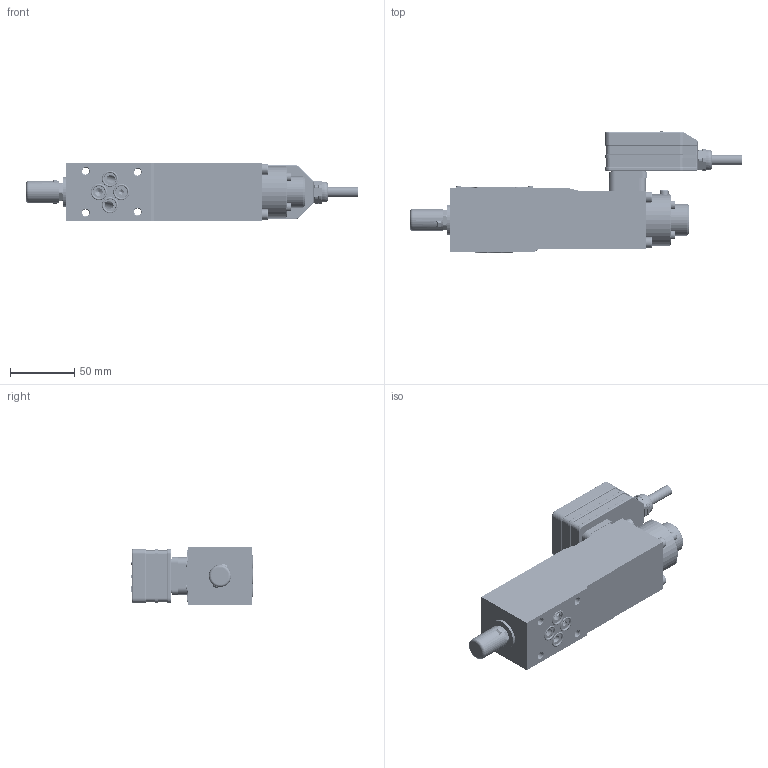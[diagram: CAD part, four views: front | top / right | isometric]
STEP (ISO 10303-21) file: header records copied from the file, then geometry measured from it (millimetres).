
FILE_DESCRIPTION(/* description */ (''),/* implementation_level */ '2;1');
FILE_NAME(/* name */ 'DBEE6.stp',/* time_stamp */ '2023-11-01T16:02:23+08:00',/* author */ (''),/* organization */ (''),/* preprocessor_version */ 'ST-DEVELOPER v16.7',/* originating_system */ 'SIEMENS PLM Software NX 12.0',/* authorisation */ '');
FILE_SCHEMA (('AUTOMOTIVE_DESIGN { 1 0 10303 214 3 1 1 1 }'));
Products named in the file (1): DBEE6
Bounding box: 258.76 x 94.48 x 45 mm (x, y, z)
Volume: 210550.8 mm3; surface area: 128202.4 mm2
Topology: 63 solids, 76 shells, 2807 faces, 7269 edges, 4761 vertices
Faces by surface type: plane 1722, cylinder 725, cone 169, torus 84, bspline 75, extrusion 23, sphere 9
Full cylindrical faces by diameter (mm): 0.8 x1, 1 x2, 1.4 x2, 1.5 x3, 1.8 x5, 2.15 x1, 2.459 x2, 2.5 x2, 3 x11, 4 x31, 4.5 x9, 4.8 x1, 5 x122, 5.4 x4, 5.5 x4, 6 x3, 6.5 x2, 6.78 x5, 7 x3, 7.5 x3, 8.28 x4, 9 x1, 9.4 x8, 9.8 x1, 9.91 x1, 10 x6, 10.2 x1, 10.5 x1, 10.8 x1, 12 x1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
Entity records: 165700 total; most frequent: CARTESIAN_POINT 98897, ORIENTED_EDGE 12822, DIRECTION 11845, EDGE_CURVE 6411, VERTEX_POINT 4350, AXIS2_PLACEMENT_3D 4044, VECTOR 3757, LINE 3734
